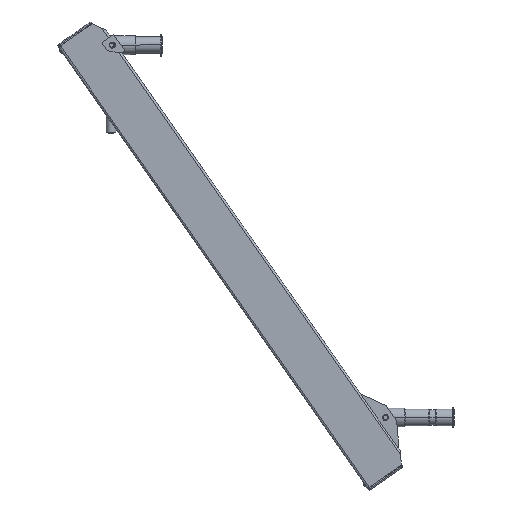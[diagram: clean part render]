
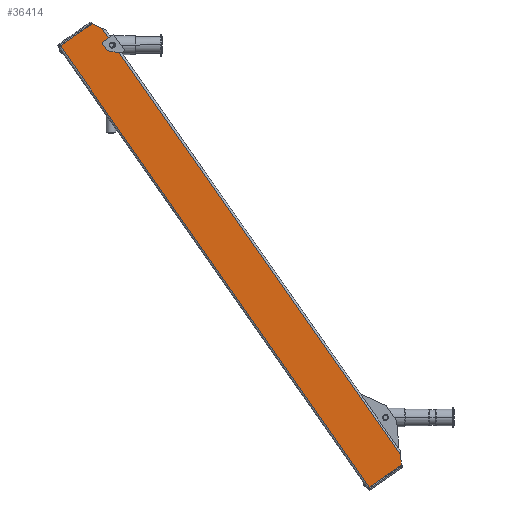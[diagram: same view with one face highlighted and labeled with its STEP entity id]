
A CAD part, left-side view. The second image highlights one B-rep face of the part: STEP entity #36414.
In plain terms, the highlighted planar face has unit normal (-1, 0, 0).
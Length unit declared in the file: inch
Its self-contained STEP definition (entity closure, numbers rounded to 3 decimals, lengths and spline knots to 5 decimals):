
#160 = VERTEX_POINT ( 'NONE', #62808 ) ;
#529 = DIRECTION ( 'NONE',  ( -1., 0., 0. ) ) ;
#586 = VECTOR ( 'NONE', #8187, 39.37008 ) ;
#856 = VECTOR ( 'NONE', #12206, 39.37008 ) ;
#1546 = ORIENTED_EDGE ( 'NONE', *, *, #8527, .T. ) ;
#2635 = DIRECTION ( 'NONE',  ( 0., 1., 0. ) ) ;
#3696 = ORIENTED_EDGE ( 'NONE', *, *, #32847, .T. ) ;
#4723 = ORIENTED_EDGE ( 'NONE', *, *, #36527, .T. ) ;
#8187 = DIRECTION ( 'NONE',  ( 0., -1., 0. ) ) ;
#8527 = EDGE_CURVE ( 'NONE', #43663, #160, #33499, .T. ) ;
#8696 = EDGE_CURVE ( 'NONE', #43663, #38112, #25149, .T. ) ;
#9032 = DIRECTION ( 'NONE',  ( 0., 1., 0. ) ) ;
#9240 = DIRECTION ( 'NONE',  ( 0., 1., 0. ) ) ;
#9835 = PLANE ( 'NONE',  #58003 ) ;
#9996 = ORIENTED_EDGE ( 'NONE', *, *, #21712, .F. ) ;
#11033 = ORIENTED_EDGE ( 'NONE', *, *, #17420, .T. ) ;
#12206 = DIRECTION ( 'NONE',  ( 0., 0.5, 0.866 ) ) ;
#14155 = CARTESIAN_POINT ( 'NONE',  ( -1.5, -2.125, 0. ) ) ;
#15470 = FACE_OUTER_BOUND ( 'NONE', #48036, .T. ) ;
#15587 = EDGE_CURVE ( 'NONE', #32346, #32337, #29067, .T. ) ;
#16658 = CARTESIAN_POINT ( 'NONE',  ( -1.5, -2.5, 26.375 ) ) ;
#16737 = VERTEX_POINT ( 'NONE', #14155 ) ;
#17378 = CARTESIAN_POINT ( 'NONE',  ( -1.5, -2.5, 0.64952 ) ) ;
#17420 = EDGE_CURVE ( 'NONE', #21658, #57793, #55937, .T. ) ;
#17580 = CARTESIAN_POINT ( 'NONE',  ( -1.5, -2.315, 26.5 ) ) ;
#18806 = CARTESIAN_POINT ( 'NONE',  ( -1.5, -2.5, 26.625 ) ) ;
#18833 = CIRCLE ( 'NONE', #20930, 0.14062 ) ;
#19818 = CARTESIAN_POINT ( 'NONE',  ( -1.5, -2.4, 28. ) ) ;
#19854 = ORIENTED_EDGE ( 'NONE', *, *, #37978, .T. ) ;
#20930 = AXIS2_PLACEMENT_3D ( 'NONE', #17580, #36884, #2635 ) ;
#21259 = CARTESIAN_POINT ( 'NONE',  ( -1.5, -2.37942, 26.375 ) ) ;
#21406 = DIRECTION ( 'NONE',  ( 0., -0.5, 0.866 ) ) ;
#21658 = VERTEX_POINT ( 'NONE', #21259 ) ;
#21712 = EDGE_CURVE ( 'NONE', #50063, #24404, #33522, .T. ) ;
#22506 = VECTOR ( 'NONE', #21406, 39.37008 ) ;
#23908 = CARTESIAN_POINT ( 'NONE',  ( -1.5, -0.1, 0. ) ) ;
#24404 = VERTEX_POINT ( 'NONE', #42683 ) ;
#24561 = ORIENTED_EDGE ( 'NONE', *, *, #25666, .T. ) ;
#25149 = LINE ( 'NONE', #19818, #31630 ) ;
#25190 = ORIENTED_EDGE ( 'NONE', *, *, #8696, .F. ) ;
#25500 = DIRECTION ( 'NONE',  ( 0., -1., 0. ) ) ;
#25666 = EDGE_CURVE ( 'NONE', #16737, #24404, #52576, .T. ) ;
#28122 = CARTESIAN_POINT ( 'NONE',  ( -1.5, -2.37942, 26.625 ) ) ;
#28172 = LINE ( 'NONE', #18806, #586 ) ;
#28542 = CARTESIAN_POINT ( 'NONE',  ( -1.5, -2.5, 27.35048 ) ) ;
#29067 = LINE ( 'NONE', #43986, #65306 ) ;
#29124 = ORIENTED_EDGE ( 'NONE', *, *, #64528, .T. ) ;
#30684 = CARTESIAN_POINT ( 'NONE',  ( -1.5, -0.1, 28. ) ) ;
#31630 = VECTOR ( 'NONE', #33824, 39.37008 ) ;
#32337 = VERTEX_POINT ( 'NONE', #47410 ) ;
#32346 = VERTEX_POINT ( 'NONE', #38119 ) ;
#32847 = EDGE_CURVE ( 'NONE', #48948, #38112, #28172, .T. ) ;
#33499 = LINE ( 'NONE', #28542, #856 ) ;
#33522 = LINE ( 'NONE', #58060, #57297 ) ;
#33824 = DIRECTION ( 'NONE',  ( 0., 0., -1. ) ) ;
#34322 = DIRECTION ( 'NONE',  ( 1., 0., 0. ) ) ;
#36414 = ADVANCED_FACE ( 'NONE', ( #15470 ), #9835, .T. ) ;
#36527 = EDGE_CURVE ( 'NONE', #50063, #21658, #41933, .T. ) ;
#36617 = LINE ( 'NONE', #30684, #61275 ) ;
#36819 = ORIENTED_EDGE ( 'NONE', *, *, #15587, .T. ) ;
#36884 = DIRECTION ( 'NONE',  ( 1., 0., 0. ) ) ;
#37978 = EDGE_CURVE ( 'NONE', #160, #32346, #36617, .T. ) ;
#38112 = VERTEX_POINT ( 'NONE', #48854 ) ;
#38119 = CARTESIAN_POINT ( 'NONE',  ( -1.5, -0.1, 28. ) ) ;
#39005 = DIRECTION ( 'NONE',  ( 0., 0., -1. ) ) ;
#39063 = CARTESIAN_POINT ( 'NONE',  ( -1.5, -2.17438, 26.5 ) ) ;
#40572 = VECTOR ( 'NONE', #9240, 39.37008 ) ;
#41933 = LINE ( 'NONE', #16658, #54801 ) ;
#42214 = AXIS2_PLACEMENT_3D ( 'NONE', #44925, #34322, #9032 ) ;
#42463 = ORIENTED_EDGE ( 'NONE', *, *, #44861, .F. ) ;
#42683 = CARTESIAN_POINT ( 'NONE',  ( -1.5, -2.4, 0.47631 ) ) ;
#43663 = VERTEX_POINT ( 'NONE', #57300 ) ;
#43986 = CARTESIAN_POINT ( 'NONE',  ( -1.5, -0.1, 28. ) ) ;
#44816 = LINE ( 'NONE', #23908, #40572 ) ;
#44861 = EDGE_CURVE ( 'NONE', #16737, #32337, #44816, .T. ) ;
#44925 = CARTESIAN_POINT ( 'NONE',  ( -1.5, -2.315, 26.5 ) ) ;
#47225 = DIRECTION ( 'NONE',  ( 0., 1., 0. ) ) ;
#47410 = CARTESIAN_POINT ( 'NONE',  ( -1.5, -0.1, 0. ) ) ;
#48036 = EDGE_LOOP ( 'NONE', ( #1546, #19854, #36819, #42463, #24561, #9996, #4723, #11033, #29124, #3696, #25190 ) ) ;
#48854 = CARTESIAN_POINT ( 'NONE',  ( -1.5, -2.4, 26.625 ) ) ;
#48948 = VERTEX_POINT ( 'NONE', #28122 ) ;
#50008 = CARTESIAN_POINT ( 'NONE',  ( -1.5, -0.1, 28. ) ) ;
#50063 = VERTEX_POINT ( 'NONE', #54553 ) ;
#52576 = LINE ( 'NONE', #17378, #22506 ) ;
#53731 = DIRECTION ( 'NONE',  ( 0., 0., -1. ) ) ;
#54553 = CARTESIAN_POINT ( 'NONE',  ( -1.5, -2.4, 26.375 ) ) ;
#54801 = VECTOR ( 'NONE', #47225, 39.37008 ) ;
#55937 = CIRCLE ( 'NONE', #42214, 0.14062 ) ;
#56833 = DIRECTION ( 'NONE',  ( 0., 1., 0. ) ) ;
#57297 = VECTOR ( 'NONE', #53731, 39.37008 ) ;
#57300 = CARTESIAN_POINT ( 'NONE',  ( -1.5, -2.4, 27.52369 ) ) ;
#57793 = VERTEX_POINT ( 'NONE', #39063 ) ;
#58003 = AXIS2_PLACEMENT_3D ( 'NONE', #50008, #529, #25500 ) ;
#58060 = CARTESIAN_POINT ( 'NONE',  ( -1.5, -2.4, 28. ) ) ;
#61275 = VECTOR ( 'NONE', #56833, 39.37008 ) ;
#62808 = CARTESIAN_POINT ( 'NONE',  ( -1.5, -2.125, 28. ) ) ;
#64528 = EDGE_CURVE ( 'NONE', #57793, #48948, #18833, .T. ) ;
#65306 = VECTOR ( 'NONE', #39005, 39.37008 ) ;
